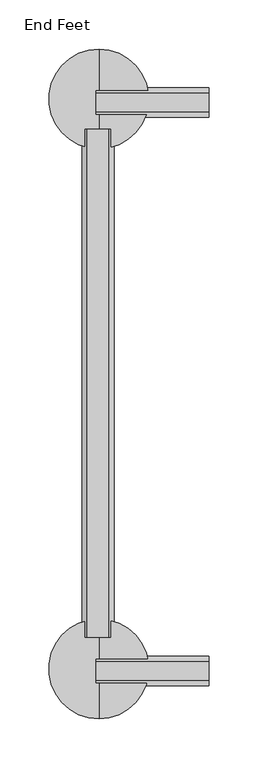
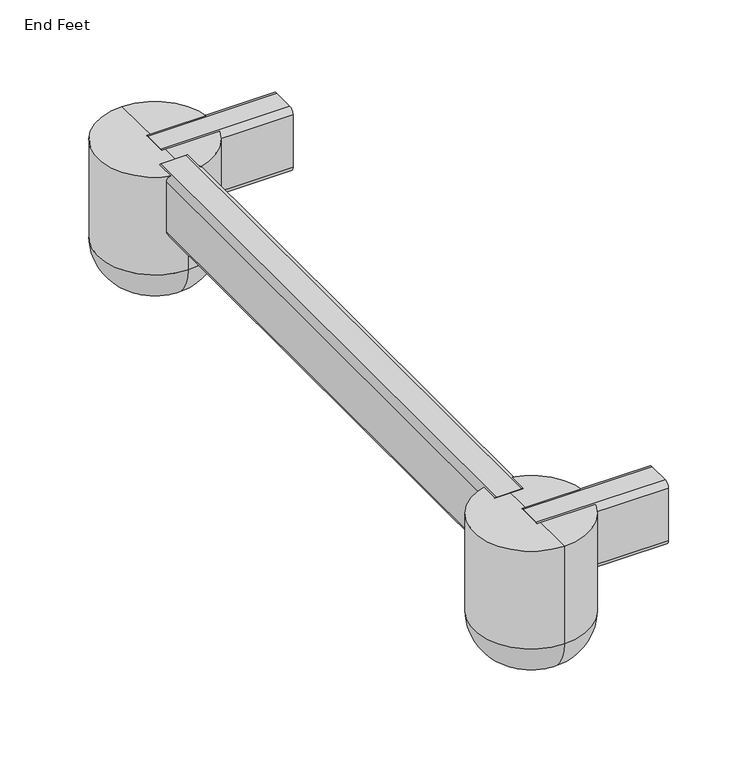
"""IFC4 building model written with IfcOpenShell, lengths in millimetres: furniture geometry, Coalesse_AM_Ensemble_Chaise_EndFeet : End Feet."""

from ifc_helpers import new_model, si_unit, point, frame, frame_2d, origin, place, context, project, spatial, polyline, circle_curve, ellipse_curve, trimmed, segment, composite_curve, outline, extrude, source, transform, mapped, element, save
from ifc_brep_helpers import plane_surface, cylinder_surface, revolved_surface, advanced_brep


def end_feet_fcaaf692(model_context):
    return source(origin(), model_context, "Body", "SolidModel", [
        extrude(outline(composite_curve([segment(trimmed(circle_curve(frame_2d((-108.865872, 125.0107271)), 5.08), [point((-108.865872, 130.0907271))], [point((-103.785872, 125.0107271))], False, "CARTESIAN"), True, "CONTINUOUS"), segment(polyline([(-103.785872, 125.0107271), (-103.785872, 75.6579413)]), True, "CONTINUOUS"), segment(trimmed(circle_curve(frame_2d((-108.865872, 75.6579413)), 5.08), [point((-103.785872, 75.6579413))], [point((-108.865872, 70.5779413))], False, "CARTESIAN"), True, "CONTINUOUS"), segment(polyline([(-108.865872, 70.5779413), (-129.0980339, 70.5779413)]), True, "CONTINUOUS"), segment(trimmed(circle_curve(frame_2d((-129.0980339, 75.5475648)), 4.9696236), [point((-129.0980339, 70.5779413))], [point((-134.0676575, 75.5475648))], False, "CARTESIAN"), True, "CONTINUOUS"), segment(polyline([(-134.0676575, 75.5475648), (-134.0676575, 125.0107271)]), True, "CONTINUOUS"), segment(trimmed(circle_curve(frame_2d((-128.9876575, 125.0107271)), 5.08), [point((-134.0676575, 125.0107271))], [point((-128.9876575, 130.0907271))], False, "CARTESIAN"), True, "CONTINUOUS"), segment(polyline([(-128.9876575, 130.0907271), (-108.865872, 130.0907271)]), True, "CONTINUOUS")], self_intersect=False)), frame((88.0572759, 0.0, 0.0), z_axis=(1.0, 0.0, 0.0), x_axis=(0.0, 1.0, 0.0)), (0.0, 0.0, 1.0), 115.1427241),
        extrude(outline(composite_curve([segment(trimmed(circle_curve(frame_2d((-688.6735965, 125.0107271)), 5.08), [point((-688.6735965, 130.0907271))], [point((-683.5935965, 125.0107271))], False, "CARTESIAN"), True, "CONTINUOUS"), segment(polyline([(-683.5935965, 125.0107271), (-683.5935965, 75.6579413)]), True, "CONTINUOUS"), segment(trimmed(circle_curve(frame_2d((-688.6735965, 75.6579413)), 5.08), [point((-683.5935965, 75.6579413))], [point((-688.6735965, 70.5779413))], False, "CARTESIAN"), True, "CONTINUOUS"), segment(polyline([(-688.6735965, 70.5779413), (-708.9057584, 70.5779413)]), True, "CONTINUOUS"), segment(trimmed(circle_curve(frame_2d((-708.9057584, 75.5475648)), 4.9696236), [point((-708.9057584, 70.5779413))], [point((-713.875382, 75.5475648))], False, "CARTESIAN"), True, "CONTINUOUS"), segment(polyline([(-713.875382, 75.5475648), (-713.875382, 125.0107271)]), True, "CONTINUOUS"), segment(trimmed(circle_curve(frame_2d((-708.795382, 125.0107271)), 5.08), [point((-713.875382, 125.0107271))], [point((-708.795382, 130.0907271))], False, "CARTESIAN"), True, "CONTINUOUS"), segment(polyline([(-708.795382, 130.0907271), (-688.6735965, 130.0907271)]), True, "CONTINUOUS")], self_intersect=False)), frame((88.0572759, 0.0, 0.0), z_axis=(1.0, 0.0, 0.0), x_axis=(0.0, 1.0, 0.0)), (0.0, 0.0, 1.0), 115.1427241),
        extrude(outline(composite_curve([segment(polyline([(73.0866867, 78.711375), (73.0866867, 101.0575274)]), True, "CONTINUOUS"), segment(trimmed(circle_curve(frame_2d((78.1666867, 101.0575274)), 5.08), [point((73.0866867, 101.0575274))], [point((78.1666867, 106.1375274))], False, "CARTESIAN"), True, "CONTINUOUS"), segment(polyline([(78.1666867, 106.1375274), (125.0107271, 106.1375274)]), True, "CONTINUOUS"), segment(trimmed(circle_curve(frame_2d((125.0107271, 101.0575274)), 5.08), [point((125.0107271, 106.1375274))], [point((130.0907271, 101.0575274))], False, "CARTESIAN"), True, "CONTINUOUS"), segment(polyline([(130.0907271, 101.0575274), (130.0907271, 78.711375)]), True, "CONTINUOUS"), segment(trimmed(circle_curve(frame_2d((125.0107271, 78.711375)), 5.08), [point((130.0907271, 78.711375))], [point((125.0107271, 73.631375))], False, "CARTESIAN"), True, "CONTINUOUS"), segment(polyline([(125.0107271, 73.631375), (78.1666867, 73.631375)]), True, "CONTINUOUS"), segment(trimmed(circle_curve(frame_2d((78.1666867, 78.711375)), 5.08), [point((78.1666867, 73.631375))], [point((73.0866867, 78.711375))], False, "CARTESIAN"), True, "CONTINUOUS")], self_intersect=False)), frame((0.0, -664.4285803, 0.0), z_axis=(0.0, 1.0, 0.0), x_axis=(0.0, 0.0, 1.0)), (0.0, 0.0, 1.0), 518.3433707),
        advanced_brep(
        [(90.839512, -747.4877706, 130.0907271), (90.839512, -696.5184037, 130.0907271), (90.839512, -645.5490367, 130.0907271), (90.839512, -747.4877706, 38.1), (90.839512, -645.5490367, 38.1), (90.839512, -709.3877706, 0.0), (90.839512, -683.6490367, 0.0), (90.839512, -696.5184037, 0.0)],
        [
            (0, 1),
            (1, 2),
            (2, 0, circle_curve(frame((90.839512, -696.5184037, 130.0907271), z_axis=(0.0, 0.0, 1.0), x_axis=(0.0, 1.0, 0.0)), 50.969367)),
            (0, 2, circle_curve(frame((90.839512, -696.5184037, 130.0907271), z_axis=(0.0, 0.0, 1.0), x_axis=(0.0, 1.0, 0.0)), 50.969367)),
            (3, 0),
            (2, 4),
            (4, 3, circle_curve(frame((90.839512, -696.5184037, 38.1), z_axis=(0.0, 0.0, 1.0), x_axis=(0.0, 1.0, 0.0)), 50.969367)),
            (3, 4, circle_curve(frame((90.839512, -696.5184037, 38.1), z_axis=(0.0, 0.0, 1.0), x_axis=(0.0, 1.0, 0.0)), 50.969367)),
            (5, 3, circle_curve(frame((90.839512, -709.3877706, 38.1), z_axis=(-1.0, 0.0, 0.0), x_axis=(0.0, -1.0, 0.0)), 38.1)),
            (4, 6, circle_curve(frame((90.839512, -683.6490367, 38.1), z_axis=(-1.0, 0.0, 0.0), x_axis=(0.0, 1.0, 0.0)), 38.1)),
            (6, 5, circle_curve(frame((90.839512, -696.5184037, 0.0), z_axis=(0.0, 0.0, 1.0), x_axis=(0.0, 1.0, 0.0)), 12.869367)),
            (5, 6, circle_curve(frame((90.839512, -696.5184037, 0.0), z_axis=(0.0, 0.0, 1.0), x_axis=(0.0, 1.0, 0.0)), 12.869367)),
            (7, 5),
            (6, 7),
        ],
        [
            plane_surface(frame((90.839512, -696.5184037, 130.0907271), z_axis=(0.0, 0.0, 1.0), x_axis=(0.0, 1.0, 0.0))),
            cylinder_surface(frame((90.839512, -696.5184037, 130.0907271), z_axis=(0.0, 0.0, -1.0), x_axis=(0.0, 1.0, 0.0)), 50.969367),
            revolved_surface(trimmed(ellipse_curve(frame((90.839512, -683.6490367, 38.1), z_axis=(-1.0, 0.0, 0.0), x_axis=(0.0, 1.0, 0.0)), 38.1, 38.1), [point((90.839512, -645.5490367, 38.1))], [point((90.839512, -683.6490367, 0.0))], True, "CARTESIAN"), (90.839512, -696.5184037, 130.0907271), (0.0, 0.0, -1.0)),
            plane_surface(frame((90.839512, -696.5184037, 0.0), z_axis=(0.0, 0.0, -1.0), x_axis=(0.0, 1.0, 0.0))),
        ],
        [
            (0, [[1, 2, 3]]),
            (0, [[-2, -1, 4]]),
            (1, [[5, -3, 6, 7]]),
            (1, [[-6, -4, -5, 8]]),
            (2, [[9, -7, 10, 11]]),
            (2, [[-10, -8, -9, 12]]),
            (3, [[13, -11, 14]]),
            (3, [[-14, -12, -13]]),
        ],
    ),
        advanced_brep(
        [(90.839512, -166.4627706, 130.0907271), (90.839512, -115.4934037, 130.0907271), (90.839512, -64.5240367, 130.0907271), (90.839512, -166.4627706, 38.1), (90.839512, -64.5240367, 38.1), (90.839512, -128.3627706, 0.0), (90.839512, -102.6240367, 0.0), (90.839512, -115.4934037, 0.0)],
        [
            (0, 1),
            (1, 2),
            (2, 0, circle_curve(frame((90.839512, -115.4934037, 130.0907271), z_axis=(0.0, 0.0, 1.0), x_axis=(0.0, 1.0, 0.0)), 50.969367)),
            (0, 2, circle_curve(frame((90.839512, -115.4934037, 130.0907271), z_axis=(0.0, 0.0, 1.0), x_axis=(0.0, 1.0, 0.0)), 50.969367)),
            (3, 0),
            (2, 4),
            (4, 3, circle_curve(frame((90.839512, -115.4934037, 38.1), z_axis=(0.0, 0.0, 1.0), x_axis=(0.0, 1.0, 0.0)), 50.969367)),
            (3, 4, circle_curve(frame((90.839512, -115.4934037, 38.1), z_axis=(0.0, 0.0, 1.0), x_axis=(0.0, 1.0, 0.0)), 50.969367)),
            (5, 3, circle_curve(frame((90.839512, -128.3627706, 38.1), z_axis=(-1.0, 0.0, 0.0), x_axis=(0.0, -1.0, 0.0)), 38.1)),
            (4, 6, circle_curve(frame((90.839512, -102.6240367, 38.1), z_axis=(-1.0, 0.0, 0.0), x_axis=(0.0, 1.0, 0.0)), 38.1)),
            (6, 5, circle_curve(frame((90.839512, -115.4934037, 0.0), z_axis=(0.0, 0.0, 1.0), x_axis=(0.0, 1.0, 0.0)), 12.869367)),
            (5, 6, circle_curve(frame((90.839512, -115.4934037, 0.0), z_axis=(0.0, 0.0, 1.0), x_axis=(0.0, 1.0, 0.0)), 12.869367)),
            (7, 5),
            (6, 7),
        ],
        [
            plane_surface(frame((90.839512, -115.4934037, 130.0907271), z_axis=(0.0, 0.0, 1.0), x_axis=(0.0, 1.0, 0.0))),
            cylinder_surface(frame((90.839512, -115.4934037, 130.0907271), z_axis=(0.0, 0.0, -1.0), x_axis=(0.0, 1.0, 0.0)), 50.969367),
            revolved_surface(trimmed(ellipse_curve(frame((90.839512, -102.6240367, 38.1), z_axis=(-1.0, 0.0, 0.0), x_axis=(0.0, 1.0, 0.0)), 38.1, 38.1), [point((90.839512, -64.5240367, 38.1))], [point((90.839512, -102.6240367, 0.0))], True, "CARTESIAN"), (90.839512, -115.4934037, 130.0907271), (0.0, 0.0, -1.0)),
            plane_surface(frame((90.839512, -115.4934037, 0.0), z_axis=(0.0, 0.0, -1.0), x_axis=(0.0, 1.0, 0.0))),
        ],
        [
            (0, [[1, 2, 3]]),
            (0, [[-2, -1, 4]]),
            (1, [[5, -3, 6, 7]]),
            (1, [[-6, -4, -5, 8]]),
            (2, [[9, -7, 10, 11]]),
            (2, [[-10, -8, -9, 12]]),
            (3, [[13, -11, 14]]),
            (3, [[-14, -12, -13]]),
        ],
    ),
    ])


if __name__ == "__main__":
    model = new_model("IFC4")
    model_context = context("Model", 3, world=origin())
    ifc_project = project(units=[si_unit("LENGTHUNIT", "METRE", prefix="MILLI")], contexts=[model_context])
    site = spatial("IfcSite", under=ifc_project)
    building = spatial("IfcBuilding", under=site)
    placement = place(None, origin())
    end_feet_shape = end_feet_fcaaf692(model_context)
    element("IfcFurniture", 1, ObjectType="Coalesse_AM_Ensemble_Chaise_EndFeet : End Feet", at=placement, inside=building, context=model_context, shape_type="MappedRepresentation", body=[
        mapped(end_feet_shape, transform((0.0, 0.0, 0.0), x_axis=(1.0, 0.0, 0.0), y_axis=(0.0, 1.0, 0.0), z_axis=(0.0, 0.0, 1.0))),
    ])
    save(model, "model.ifc")
